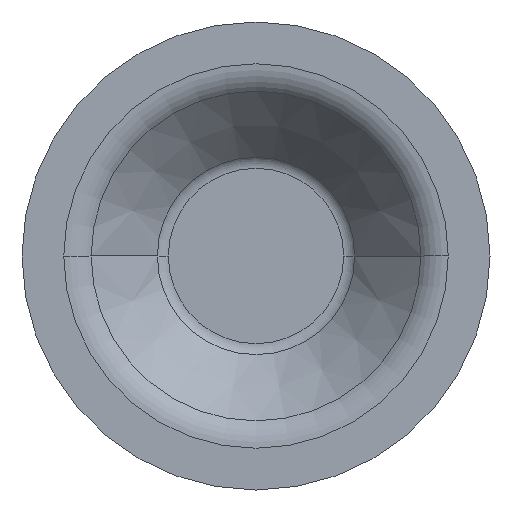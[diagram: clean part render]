
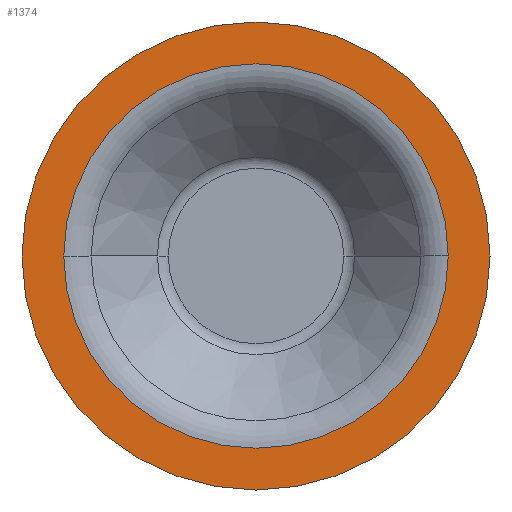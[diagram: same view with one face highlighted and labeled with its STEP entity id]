
A CAD part, front view. The second image highlights one B-rep face of the part: STEP entity #1374.
In plain terms, the highlighted planar face has unit normal (0, -1, 0).
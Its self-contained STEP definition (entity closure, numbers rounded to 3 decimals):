
#47 = DIRECTION ( 'NONE',  ( 1., 0., 0. ) ) ;
#49 = DIRECTION ( 'NONE',  ( -1., 0., 0. ) ) ;
#185 = CARTESIAN_POINT ( 'NONE',  ( 31.5, -15., 0. ) ) ;
#195 = DIRECTION ( 'NONE',  ( 0., -1., 0. ) ) ;
#254 = VERTEX_POINT ( 'NONE', #1126 ) ;
#285 = CARTESIAN_POINT ( 'NONE',  ( 25.88, -15., 0. ) ) ;
#298 = CARTESIAN_POINT ( 'NONE',  ( -25.88, -15., 0. ) ) ;
#416 = CARTESIAN_POINT ( 'NONE',  ( 0., -15., 0. ) ) ;
#452 = DIRECTION ( 'NONE',  ( 1., 0., 0. ) ) ;
#475 = EDGE_LOOP ( 'NONE', ( #646, #743 ) ) ;
#486 = CIRCLE ( 'NONE', #759, 25.88 ) ;
#520 = VERTEX_POINT ( 'NONE', #1167 ) ;
#568 = PLANE ( 'NONE',  #694 ) ;
#575 = DIRECTION ( 'NONE',  ( 0., -1., 0. ) ) ;
#577 = ORIENTED_EDGE ( 'NONE', *, *, #677, .F. ) ;
#646 = ORIENTED_EDGE ( 'NONE', *, *, #1487, .T. ) ;
#661 = CIRCLE ( 'NONE', #1056, 31.5 ) ;
#677 = EDGE_CURVE ( 'NONE', #1004, #878, #897, .T. ) ;
#692 = CIRCLE ( 'NONE', #1493, 31.5 ) ;
#694 = AXIS2_PLACEMENT_3D ( 'NONE', #185, #1568, #47 ) ;
#699 = AXIS2_PLACEMENT_3D ( 'NONE', #416, #928, #49 ) ;
#743 = ORIENTED_EDGE ( 'NONE', *, *, #822, .T. ) ;
#759 = AXIS2_PLACEMENT_3D ( 'NONE', #1082, #1240, #841 ) ;
#822 = EDGE_CURVE ( 'NONE', #254, #520, #661, .T. ) ;
#841 = DIRECTION ( 'NONE',  ( -1., 0., 0. ) ) ;
#878 = VERTEX_POINT ( 'NONE', #285 ) ;
#897 = CIRCLE ( 'NONE', #699, 25.88 ) ;
#928 = DIRECTION ( 'NONE',  ( 0., -1., 0. ) ) ;
#1004 = VERTEX_POINT ( 'NONE', #298 ) ;
#1056 = AXIS2_PLACEMENT_3D ( 'NONE', #1336, #195, #1098 ) ;
#1082 = CARTESIAN_POINT ( 'NONE',  ( 0., -15., 0. ) ) ;
#1098 = DIRECTION ( 'NONE',  ( 1., 0., 0. ) ) ;
#1126 = CARTESIAN_POINT ( 'NONE',  ( -31.5, -15., 0. ) ) ;
#1167 = CARTESIAN_POINT ( 'NONE',  ( 31.5, -15., 0. ) ) ;
#1240 = DIRECTION ( 'NONE',  ( 0., -1., 0. ) ) ;
#1309 = FACE_OUTER_BOUND ( 'NONE', #475, .T. ) ;
#1336 = CARTESIAN_POINT ( 'NONE',  ( 0., -15., 0. ) ) ;
#1344 = CARTESIAN_POINT ( 'NONE',  ( 0., -15., 0. ) ) ;
#1374 = ADVANCED_FACE ( 'NONE', ( #1558, #1309 ), #568, .T. ) ;
#1487 = EDGE_CURVE ( 'NONE', #520, #254, #692, .T. ) ;
#1493 = AXIS2_PLACEMENT_3D ( 'NONE', #1344, #575, #452 ) ;
#1522 = EDGE_LOOP ( 'NONE', ( #577, #1525 ) ) ;
#1525 = ORIENTED_EDGE ( 'NONE', *, *, #1590, .F. ) ;
#1558 = FACE_BOUND ( 'NONE', #1522, .T. ) ;
#1568 = DIRECTION ( 'NONE',  ( 0., -1., 0. ) ) ;
#1590 = EDGE_CURVE ( 'NONE', #878, #1004, #486, .T. ) ;
